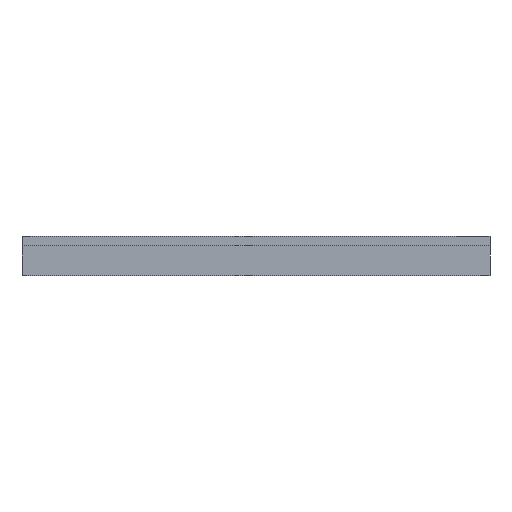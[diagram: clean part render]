
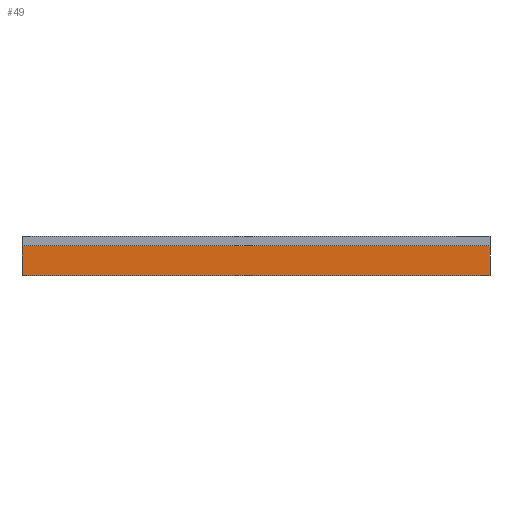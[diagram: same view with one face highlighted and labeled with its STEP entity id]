
A CAD part, left-side view. The second image highlights one B-rep face of the part: STEP entity #49.
In plain terms, the highlighted planar face has unit normal (-1, 0, 0).
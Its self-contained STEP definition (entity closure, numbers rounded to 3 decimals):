
#49=ADVANCED_FACE('',(#98),#780,.T.);
#98=FACE_OUTER_BOUND('',#147,.T.);
#147=EDGE_LOOP('',(#277,#278,#279,#280));
#277=ORIENTED_EDGE('',*,*,#482,.T.);
#278=ORIENTED_EDGE('',*,*,#483,.T.);
#279=ORIENTED_EDGE('',*,*,#484,.F.);
#280=ORIENTED_EDGE('',*,*,#485,.F.);
#482=EDGE_CURVE('',#727,#721,#641,.T.);
#483=EDGE_CURVE('',#721,#722,#642,.T.);
#484=EDGE_CURVE('',#728,#722,#643,.T.);
#485=EDGE_CURVE('',#727,#728,#644,.T.);
#641=B_SPLINE_CURVE_WITH_KNOTS('',1,(#1305,#1306),.UNSPECIFIED.,.F.,.F.,
(2,2),(0.,16.),.UNSPECIFIED.);
#642=B_SPLINE_CURVE_WITH_KNOTS('',1,(#1307,#1308),.UNSPECIFIED.,.F.,.F.,
(2,2),(0.,250.),.UNSPECIFIED.);
#643=B_SPLINE_CURVE_WITH_KNOTS('',1,(#1309,#1310),.UNSPECIFIED.,.F.,.F.,
(2,2),(0.,16.),.UNSPECIFIED.);
#644=B_SPLINE_CURVE_WITH_KNOTS('',1,(#1311,#1312),.UNSPECIFIED.,.F.,.F.,
(2,2),(0.,250.),.UNSPECIFIED.);
#721=VERTEX_POINT('',#1139);
#722=VERTEX_POINT('',#1140);
#727=VERTEX_POINT('',#1145);
#728=VERTEX_POINT('',#1146);
#780=PLANE('',#897);
#897=AXIS2_PLACEMENT_3D('',#1065,#969,$);
#969=DIRECTION('',(-1.,0.,0.));
#1065=CARTESIAN_POINT('',(-5.1,0.,5.));
#1139=CARTESIAN_POINT('',(-5.1,0.,21.));
#1140=CARTESIAN_POINT('',(-5.1,250.,21.));
#1145=CARTESIAN_POINT('',(-5.1,0.,5.));
#1146=CARTESIAN_POINT('',(-5.1,250.,5.));
#1305=CARTESIAN_POINT('',(-5.1,0.,5.));
#1306=CARTESIAN_POINT('',(-5.1,0.,21.));
#1307=CARTESIAN_POINT('',(-5.1,0.,21.));
#1308=CARTESIAN_POINT('',(-5.1,250.,21.));
#1309=CARTESIAN_POINT('',(-5.1,250.,5.));
#1310=CARTESIAN_POINT('',(-5.1,250.,21.));
#1311=CARTESIAN_POINT('',(-5.1,0.,5.));
#1312=CARTESIAN_POINT('',(-5.1,250.,5.));
